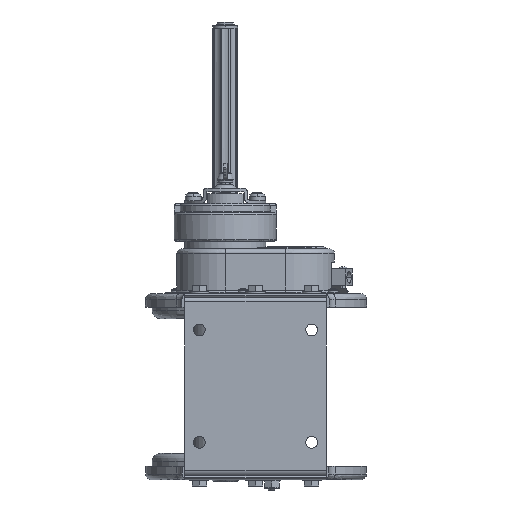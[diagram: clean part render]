
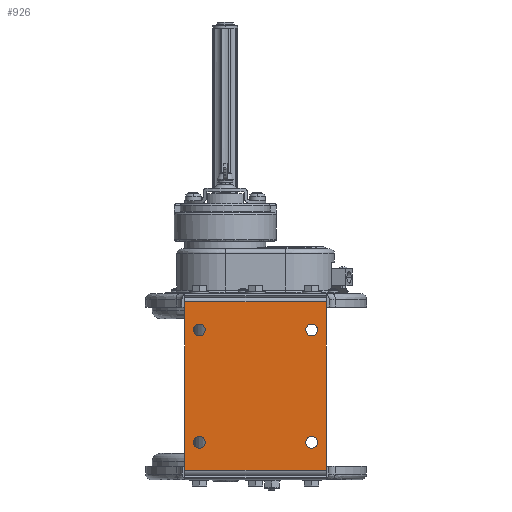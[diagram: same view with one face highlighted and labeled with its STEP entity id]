
A CAD part, front view. The second image highlights one B-rep face of the part: STEP entity #926.
In plain terms, the highlighted planar face has unit normal (0, -1, 0).
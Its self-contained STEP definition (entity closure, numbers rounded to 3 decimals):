
#926=ADVANCED_FACE('',(#10939,#10940,#10941,#10942,#10943),#10938,.F.);
#10938=PLANE('',#34224);
#10939=FACE_OUTER_BOUND('',#34225,.T.);
#10940=FACE_BOUND('',#34226,.T.);
#10941=FACE_BOUND('',#34227,.T.);
#10942=FACE_BOUND('',#34228,.T.);
#10943=FACE_BOUND('',#34229,.T.);
#34221=CARTESIAN_POINT('',(-184.621,-15.835,-160.482));
#34222=DIRECTION('',(0.,1.,0.));
#34223=DIRECTION('',(0.,0.,1.));
#34224=AXIS2_PLACEMENT_3D('',#34221,#34222,#34223);
#34225=EDGE_LOOP('',(#51650,#51651,#51652,#51653));
#34226=EDGE_LOOP('',(#51654,#51655));
#34227=EDGE_LOOP('',(#51656,#51657));
#34228=EDGE_LOOP('',(#51658,#51659));
#34229=EDGE_LOOP('',(#51660,#51661));
#51650=ORIENTED_EDGE('',*,*,#63697,.F.);
#51651=ORIENTED_EDGE('',*,*,#63665,.F.);
#51652=ORIENTED_EDGE('',*,*,#63655,.T.);
#51653=ORIENTED_EDGE('',*,*,#63699,.T.);
#51654=ORIENTED_EDGE('',*,*,#63700,.T.);
#51655=ORIENTED_EDGE('',*,*,#63701,.T.);
#51656=ORIENTED_EDGE('',*,*,#63702,.T.);
#51657=ORIENTED_EDGE('',*,*,#63703,.T.);
#51658=ORIENTED_EDGE('',*,*,#63704,.T.);
#51659=ORIENTED_EDGE('',*,*,#63705,.T.);
#51660=ORIENTED_EDGE('',*,*,#63706,.T.);
#51661=ORIENTED_EDGE('',*,*,#63707,.T.);
#63655=EDGE_CURVE('',#84687,#84694,#84701,.T.);
#63665=EDGE_CURVE('',#84687,#84769,#84770,.T.);
#63697=EDGE_CURVE('',#84769,#84983,#84984,.T.);
#63699=EDGE_CURVE('',#84694,#84983,#84996,.T.);
#63700=EDGE_CURVE('',#85002,#85003,#85004,.T.);
#63701=EDGE_CURVE('',#85003,#85002,#85010,.T.);
#63702=EDGE_CURVE('',#85016,#85017,#85018,.T.);
#63703=EDGE_CURVE('',#85017,#85016,#85024,.T.);
#63704=EDGE_CURVE('',#85030,#85031,#85032,.T.);
#63705=EDGE_CURVE('',#85031,#85030,#85038,.T.);
#63706=EDGE_CURVE('',#85044,#85045,#85046,.T.);
#63707=EDGE_CURVE('',#85045,#85044,#85052,.T.);
#84687=VERTEX_POINT('',#123897);
#84694=VERTEX_POINT('',#123902);
#84701=LINE('',#123907,#123908);
#84769=VERTEX_POINT('',#123947);
#84770=LINE('',#123948,#123949);
#84983=VERTEX_POINT('',#124079);
#84984=LINE('',#124080,#124081);
#84996=LINE('',#124087,#124088);
#85002=VERTEX_POINT('',#124090);
#85003=VERTEX_POINT('',#124091);
#85004=CIRCLE('',#124095,5.25);
#85010=CIRCLE('',#124099,5.25);
#85016=VERTEX_POINT('',#124100);
#85017=VERTEX_POINT('',#124101);
#85018=CIRCLE('',#124105,5.25);
#85024=CIRCLE('',#124109,5.25);
#85030=VERTEX_POINT('',#124110);
#85031=VERTEX_POINT('',#124111);
#85032=CIRCLE('',#124115,5.25);
#85038=CIRCLE('',#124119,5.25);
#85044=VERTEX_POINT('',#124120);
#85045=VERTEX_POINT('',#124121);
#85046=CIRCLE('',#124125,5.25);
#85052=CIRCLE('',#124129,5.25);
#123897=CARTESIAN_POINT('',(-48.621,-15.835,-0.482));
#123902=CARTESIAN_POINT('',(-174.621,-15.835,-0.482));
#123907=CARTESIAN_POINT('',(-48.621,-15.835,-0.482));
#123908=VECTOR('',#123909,126.);
#123909=DIRECTION('',(-1.,0.,0.));
#123947=CARTESIAN_POINT('',(-48.621,-15.835,-150.482));
#123948=CARTESIAN_POINT('',(-48.621,-15.835,-0.482));
#123949=VECTOR('',#123950,150.);
#123950=DIRECTION('',(0.,0.,-1.));
#124079=CARTESIAN_POINT('',(-174.621,-15.835,-150.482));
#124080=CARTESIAN_POINT('',(-48.621,-15.835,-150.482));
#124081=VECTOR('',#124082,126.);
#124082=DIRECTION('',(-1.,0.,0.));
#124087=CARTESIAN_POINT('',(-174.621,-15.835,-0.482));
#124088=VECTOR('',#124089,150.);
#124089=DIRECTION('',(0.,0.,-1.));
#124090=CARTESIAN_POINT('',(-161.621,-15.835,-120.232));
#124091=CARTESIAN_POINT('',(-161.621,-15.835,-130.732));
#124092=CARTESIAN_POINT('',(-161.621,-15.835,-125.482));
#124093=DIRECTION('',(0.,1.,0.));
#124094=DIRECTION('',(0.,0.,1.));
#124095=AXIS2_PLACEMENT_3D('',#124092,#124093,#124094);
#124096=CARTESIAN_POINT('',(-161.621,-15.835,-125.482));
#124097=DIRECTION('',(0.,1.,0.));
#124098=DIRECTION('',(0.,0.,1.));
#124099=AXIS2_PLACEMENT_3D('',#124096,#124097,#124098);
#124100=CARTESIAN_POINT('',(-61.621,-15.835,-120.232));
#124101=CARTESIAN_POINT('',(-61.621,-15.835,-130.732));
#124102=CARTESIAN_POINT('',(-61.621,-15.835,-125.482));
#124103=DIRECTION('',(0.,1.,0.));
#124104=DIRECTION('',(0.,0.,1.));
#124105=AXIS2_PLACEMENT_3D('',#124102,#124103,#124104);
#124106=CARTESIAN_POINT('',(-61.621,-15.835,-125.482));
#124107=DIRECTION('',(0.,1.,0.));
#124108=DIRECTION('',(0.,0.,1.));
#124109=AXIS2_PLACEMENT_3D('',#124106,#124107,#124108);
#124110=CARTESIAN_POINT('',(-61.621,-15.835,-20.232));
#124111=CARTESIAN_POINT('',(-61.621,-15.835,-30.732));
#124112=CARTESIAN_POINT('',(-61.621,-15.835,-25.482));
#124113=DIRECTION('',(0.,1.,0.));
#124114=DIRECTION('',(0.,0.,1.));
#124115=AXIS2_PLACEMENT_3D('',#124112,#124113,#124114);
#124116=CARTESIAN_POINT('',(-61.621,-15.835,-25.482));
#124117=DIRECTION('',(0.,1.,0.));
#124118=DIRECTION('',(0.,0.,1.));
#124119=AXIS2_PLACEMENT_3D('',#124116,#124117,#124118);
#124120=CARTESIAN_POINT('',(-161.621,-15.835,-20.232));
#124121=CARTESIAN_POINT('',(-161.621,-15.835,-30.732));
#124122=CARTESIAN_POINT('',(-161.621,-15.835,-25.482));
#124123=DIRECTION('',(0.,1.,0.));
#124124=DIRECTION('',(0.,0.,1.));
#124125=AXIS2_PLACEMENT_3D('',#124122,#124123,#124124);
#124126=CARTESIAN_POINT('',(-161.621,-15.835,-25.482));
#124127=DIRECTION('',(0.,1.,0.));
#124128=DIRECTION('',(0.,0.,1.));
#124129=AXIS2_PLACEMENT_3D('',#124126,#124127,#124128);
